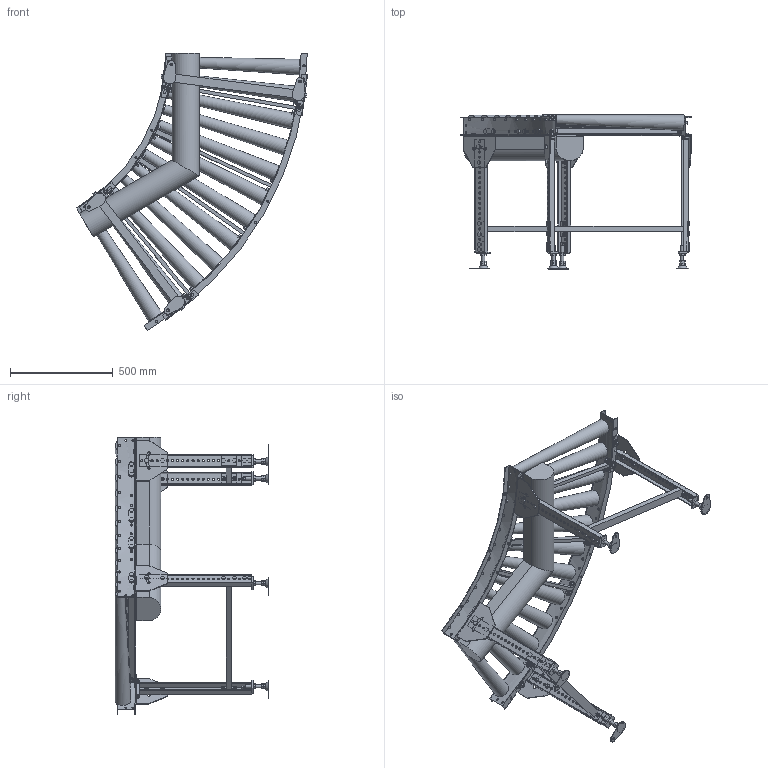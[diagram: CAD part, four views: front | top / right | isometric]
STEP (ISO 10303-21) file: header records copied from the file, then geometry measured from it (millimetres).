
FILE_DESCRIPTION( (''), '2;1');
FILE_NAME ('WEB-MCD-50-630-100-60°-C9.stp','2025-06-26T17:00:14',(''),(''),'spGate 20.6.2 (****-****-****-****)','','');
FILE_SCHEMA (('AUTOMOTIVE_DESIGN'));
Length unit declared in the file: millimetre
Products named in the file (32): WEB-MCD-50-630-100-60_-C9; TEMP_X_T-prt0; TEMP_X_T-prt1; TEMP_X_T-prt2; TEMP_X_T-prt3; TEMP_X_T-prt4; TEMP_X_T-prt5; TEMP_X_T-prt6; TEMP_X_T-prt7; TEMP_X_T-prt8; TEMP_X_T-prt9; TEMP_X_T-prt10; TEMP_X_T-prt11; TEMP_X_T-prt12; TEMP_X_T-prt13; TEMP_X_T-prt14; TEMP_X_T-prt15; TEMP_X_T-prt16; TEMP_X_T-prt17; TEMP_X_T-prt18; TEMP_X_T-prt19; TEMP_X_T-prt20; TEMP_X_T-prt21; TEMP_X_T-prt22; TEMP_X_T-prt23; TEMP_X_T-prt24; TEMP_X_T-prt25; TEMP_X_T-prt26; TEMP_X_T-prt27; TEMP_X_T-prt28; TEMP_X_T-prt29; TEMP_X_T-prt30
Assembly tree (31 placements, depth 2):
  WEB-MCD-50-630-100-60_-C9
    TEMP_X_T-prt0
    TEMP_X_T-prt1
    TEMP_X_T-prt2
    TEMP_X_T-prt3
    TEMP_X_T-prt4
    TEMP_X_T-prt5
    TEMP_X_T-prt6
    TEMP_X_T-prt7
    TEMP_X_T-prt8
    TEMP_X_T-prt9
    TEMP_X_T-prt10
    TEMP_X_T-prt11
    TEMP_X_T-prt12
    TEMP_X_T-prt13
    TEMP_X_T-prt14
    TEMP_X_T-prt15
    TEMP_X_T-prt16
    TEMP_X_T-prt17
    TEMP_X_T-prt18
    TEMP_X_T-prt19
    TEMP_X_T-prt20
    TEMP_X_T-prt21
    TEMP_X_T-prt22
    TEMP_X_T-prt23
    TEMP_X_T-prt24
    TEMP_X_T-prt25
    TEMP_X_T-prt26
    TEMP_X_T-prt27
    TEMP_X_T-prt28
    TEMP_X_T-prt29
    TEMP_X_T-prt30
Bounding box: 1126.07 x 750 x 1351 mm (x, y, z)
Volume: 43055996.4 mm3; surface area: 4045411.1 mm2
Topology: 31 solids, 51 shells, 2202 faces, 5370 edges, 3466 vertices
Faces by surface type: plane 1823, cylinder 363, bspline 16
Full cylindrical faces by diameter (mm): 8.5 x8, 10 x60, 10.5 x92, 11 x14, 12 x24, 13 x4, 14 x7, 16 x4, 18.4 x40, 18.5 x8, 21 x28
Entity records: 113739 total; most frequent: CARTESIAN_POINT 16059, DIRECTION 11036, ORIENTED_EDGE 10740, COLOUR_RGB 7603, PRESENTATION_STYLE_ASSIGNMENT 7603, STYLED_ITEM 7603, EDGE_CURVE 5370, DRAUGHTING_PRE_DEFINED_CURVE_FONT 5370
